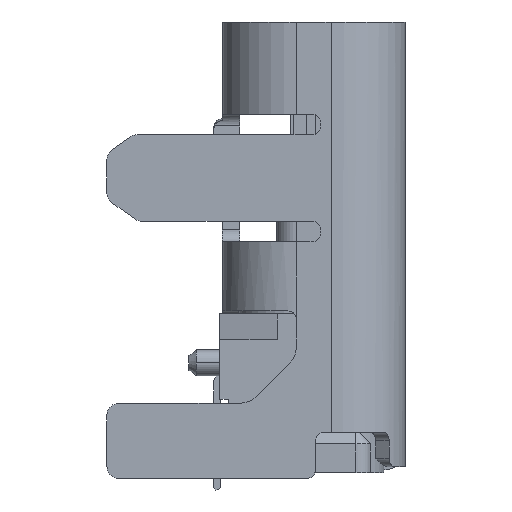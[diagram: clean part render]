
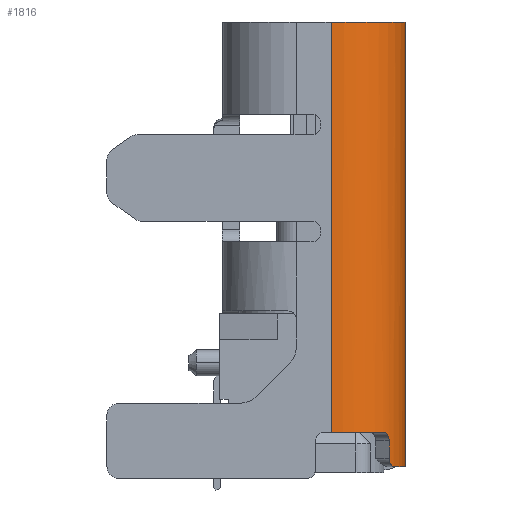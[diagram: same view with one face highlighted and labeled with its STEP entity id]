
A CAD part, left-side view. The second image highlights one B-rep face of the part: STEP entity #1816.
In plain terms, the highlighted cylindrical face has radius 1.28 mm (diameter 2.56 mm), a partial arc.
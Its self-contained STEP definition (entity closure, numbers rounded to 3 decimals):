
#899 = CARTESIAN_POINT ( 'NONE',  ( -3.971, -1.359, -2.515 ) ) ;
#1153 = CARTESIAN_POINT ( 'NONE',  ( -3.956, -1.371, -2.544 ) ) ;
#1257 = CARTESIAN_POINT ( 'NONE',  ( -3.19, -0.345, -2.754 ) ) ;
#1396 = CARTESIAN_POINT ( 'NONE',  ( -3.887, -1.419, -2.596 ) ) ;
#1816 = ADVANCED_FACE ( 'NONE', ( #17123 ), #28914, .T. ) ;
#1920 = CIRCLE ( 'NONE', #50214, 1.28 ) ;
#2757 = ORIENTED_EDGE ( 'NONE', *, *, #23943, .T. ) ;
#3435 = CARTESIAN_POINT ( 'NONE',  ( -3.988, -1.346, -2.1 ) ) ;
#4172 = LINE ( 'NONE', #8018, #25280 ) ;
#4354 = EDGE_CURVE ( 'NONE', #41145, #44627, #30693, .T. ) ;
#4722 = CARTESIAN_POINT ( 'NONE',  ( -3.982, -1.351, -2.467 ) ) ;
#4873 = EDGE_CURVE ( 'NONE', #44627, #15037, #31295, .T. ) ;
#4906 = ORIENTED_EDGE ( 'NONE', *, *, #44729, .T. ) ;
#5243 = CARTESIAN_POINT ( 'NONE',  ( -3.914, -1.401, -2.586 ) ) ;
#5445 = DIRECTION ( 'NONE',  ( 1., 0., 0. ) ) ;
#7290 = EDGE_LOOP ( 'NONE', ( #28458, #13990, #44379, #23338, #4906, #2757, #12800, #37612 ) ) ;
#8018 = CARTESIAN_POINT ( 'NONE',  ( -3.19, -1.625, -2.754 ) ) ;
#10337 = CARTESIAN_POINT ( 'NONE',  ( -3.19, -1.625, -2.6 ) ) ;
#10586 = VERTEX_POINT ( 'NONE', #11872 ) ;
#10911 = VERTEX_POINT ( 'NONE', #10337 ) ;
#11049 = EDGE_CURVE ( 'NONE', #10911, #22342, #4172, .T. ) ;
#11106 = CARTESIAN_POINT ( 'NONE',  ( -4.035, -1.306, -2.022 ) ) ;
#11836 = VECTOR ( 'NONE', #37954, 1000. ) ;
#11872 = CARTESIAN_POINT ( 'NONE',  ( -4.47, -0.345, 5.1 ) ) ;
#12800 = ORIENTED_EDGE ( 'NONE', *, *, #31196, .T. ) ;
#13173 = CARTESIAN_POINT ( 'NONE',  ( -3.878, -1.425, -2.599 ) ) ;
#13530 = DIRECTION ( 'NONE',  ( 1., 0., 0. ) ) ;
#13990 = ORIENTED_EDGE ( 'NONE', *, *, #43767, .T. ) ;
#14103 = AXIS2_PLACEMENT_3D ( 'NONE', #1257, #28658, #13530 ) ;
#15037 = VERTEX_POINT ( 'NONE', #26416 ) ;
#15954 = CARTESIAN_POINT ( 'NONE',  ( -4.047, -1.296, -2.014 ) ) ;
#16841 = CARTESIAN_POINT ( 'NONE',  ( -3.19, -0.345, -2. ) ) ;
#17123 = FACE_OUTER_BOUND ( 'NONE', #7290, .T. ) ;
#17458 = B_SPLINE_CURVE_WITH_KNOTS ( 'NONE', 3,
 ( #27483, #42370, #39293, #34924, #15954, #11106, #23133, #31582, #47250, #38530, #26719, #3435, #34686, #39544, #30824, #46486 ),
 .UNSPECIFIED., .F., .F.,
 ( 4, 3, 3, 3, 3, 4 ),
 ( 0., 0., 0., 0., 0., 0. ),
 .UNSPECIFIED. ) ;
#17941 = CARTESIAN_POINT ( 'NONE',  ( -3.982, -1.351, -2.45 ) ) ;
#19904 = DIRECTION ( 'NONE',  ( 0., 0., -1. ) ) ;
#20681 = CARTESIAN_POINT ( 'NONE',  ( -3.982, -1.351, -2.15 ) ) ;
#20841 = CARTESIAN_POINT ( 'NONE',  ( -3.9, -1.41, -2.593 ) ) ;
#21570 = DIRECTION ( 'NONE',  ( 0., 0., -1. ) ) ;
#22342 = VERTEX_POINT ( 'NONE', #33054 ) ;
#23133 = CARTESIAN_POINT ( 'NONE',  ( -4.025, -1.315, -2.033 ) ) ;
#23338 = ORIENTED_EDGE ( 'NONE', *, *, #42111, .T. ) ;
#23687 = CARTESIAN_POINT ( 'NONE',  ( -3.858, -1.437, -2.6 ) ) ;
#23943 = EDGE_CURVE ( 'NONE', #35643, #26990, #32078, .T. ) ;
#24477 = CARTESIAN_POINT ( 'NONE',  ( -4.47, -0.345, -2. ) ) ;
#25280 = VECTOR ( 'NONE', #46225, 1000. ) ;
#25676 = VECTOR ( 'NONE', #19904, 1000. ) ;
#26416 = CARTESIAN_POINT ( 'NONE',  ( -3.858, -1.437, -2.6 ) ) ;
#26588 = CARTESIAN_POINT ( 'NONE',  ( -3.982, -1.351, -2.754 ) ) ;
#26719 = CARTESIAN_POINT ( 'NONE',  ( -3.993, -1.342, -2.084 ) ) ;
#26990 = VERTEX_POINT ( 'NONE', #35944 ) ;
#27483 = CARTESIAN_POINT ( 'NONE',  ( -4.094, -1.251, -2. ) ) ;
#28458 = ORIENTED_EDGE ( 'NONE', *, *, #4873, .T. ) ;
#28658 = DIRECTION ( 'NONE',  ( 0., 0., 1. ) ) ;
#28800 = CARTESIAN_POINT ( 'NONE',  ( -3.868, -1.431, -2.6 ) ) ;
#28914 = CYLINDRICAL_SURFACE ( 'NONE', #14103, 1.28 ) ;
#30693 = LINE ( 'NONE', #26588, #25676 ) ;
#30824 = CARTESIAN_POINT ( 'NONE',  ( -3.982, -1.351, -2.139 ) ) ;
#31196 = EDGE_CURVE ( 'NONE', #26990, #41145, #17458, .T. ) ;
#31295 = B_SPLINE_CURVE_WITH_KNOTS ( 'NONE', 3,
 ( #47553, #4722, #35982, #36249, #899, #36485, #1153, #32643, #47804, #43930, #5243, #20841, #1396, #13173, #28800, #23687 ),
 .UNSPECIFIED., .F., .F.,
 ( 4, 3, 3, 3, 3, 4 ),
 ( 0., 0., 0., 0., 0., 0. ),
 .UNSPECIFIED. ) ;
#31582 = CARTESIAN_POINT ( 'NONE',  ( -4.016, -1.323, -2.043 ) ) ;
#32078 = CIRCLE ( 'NONE', #36142, 1.28 ) ;
#32478 = DIRECTION ( 'NONE',  ( 0., 0., 1. ) ) ;
#32643 = CARTESIAN_POINT ( 'NONE',  ( -3.947, -1.377, -2.557 ) ) ;
#33054 = CARTESIAN_POINT ( 'NONE',  ( -3.19, -1.625, 5.1 ) ) ;
#34077 = CARTESIAN_POINT ( 'NONE',  ( -3.19, -0.345, -2.6 ) ) ;
#34328 = CIRCLE ( 'NONE', #46653, 1.28 ) ;
#34686 = CARTESIAN_POINT ( 'NONE',  ( -3.985, -1.348, -2.116 ) ) ;
#34924 = CARTESIAN_POINT ( 'NONE',  ( -4.058, -1.285, -2.008 ) ) ;
#35643 = VERTEX_POINT ( 'NONE', #24477 ) ;
#35944 = CARTESIAN_POINT ( 'NONE',  ( -4.094, -1.251, -2. ) ) ;
#35982 = CARTESIAN_POINT ( 'NONE',  ( -3.98, -1.353, -2.484 ) ) ;
#36142 = AXIS2_PLACEMENT_3D ( 'NONE', #16841, #32478, #40444 ) ;
#36249 = CARTESIAN_POINT ( 'NONE',  ( -3.975, -1.356, -2.5 ) ) ;
#36485 = CARTESIAN_POINT ( 'NONE',  ( -3.964, -1.364, -2.531 ) ) ;
#37612 = ORIENTED_EDGE ( 'NONE', *, *, #4354, .T. ) ;
#37954 = DIRECTION ( 'NONE',  ( 0., 0., -1. ) ) ;
#38435 = DIRECTION ( 'NONE',  ( 0., 0., 1. ) ) ;
#38530 = CARTESIAN_POINT ( 'NONE',  ( -4., -1.336, -2.07 ) ) ;
#38722 = CARTESIAN_POINT ( 'NONE',  ( -4.47, -0.345, -2.754 ) ) ;
#39293 = CARTESIAN_POINT ( 'NONE',  ( -4.07, -1.275, -2.003 ) ) ;
#39544 = CARTESIAN_POINT ( 'NONE',  ( -3.983, -1.35, -2.127 ) ) ;
#40444 = DIRECTION ( 'NONE',  ( 1., 0., 0. ) ) ;
#41074 = CARTESIAN_POINT ( 'NONE',  ( -3.19, -0.345, 5.1 ) ) ;
#41145 = VERTEX_POINT ( 'NONE', #20681 ) ;
#42111 = EDGE_CURVE ( 'NONE', #22342, #10586, #34328, .T. ) ;
#42370 = CARTESIAN_POINT ( 'NONE',  ( -4.082, -1.263, -2. ) ) ;
#43767 = EDGE_CURVE ( 'NONE', #15037, #10911, #1920, .T. ) ;
#43930 = CARTESIAN_POINT ( 'NONE',  ( -3.925, -1.393, -2.577 ) ) ;
#44379 = ORIENTED_EDGE ( 'NONE', *, *, #11049, .T. ) ;
#44627 = VERTEX_POINT ( 'NONE', #17941 ) ;
#44729 = EDGE_CURVE ( 'NONE', #10586, #35643, #50014, .T. ) ;
#46225 = DIRECTION ( 'NONE',  ( 0., 0., 1. ) ) ;
#46486 = CARTESIAN_POINT ( 'NONE',  ( -3.982, -1.351, -2.15 ) ) ;
#46653 = AXIS2_PLACEMENT_3D ( 'NONE', #41074, #21570, #5445 ) ;
#47250 = CARTESIAN_POINT ( 'NONE',  ( -4.007, -1.331, -2.056 ) ) ;
#47553 = CARTESIAN_POINT ( 'NONE',  ( -3.982, -1.351, -2.45 ) ) ;
#47804 = CARTESIAN_POINT ( 'NONE',  ( -3.937, -1.385, -2.568 ) ) ;
#49733 = DIRECTION ( 'NONE',  ( 1., 0., 0. ) ) ;
#50014 = LINE ( 'NONE', #38722, #11836 ) ;
#50214 = AXIS2_PLACEMENT_3D ( 'NONE', #34077, #38435, #49733 ) ;
